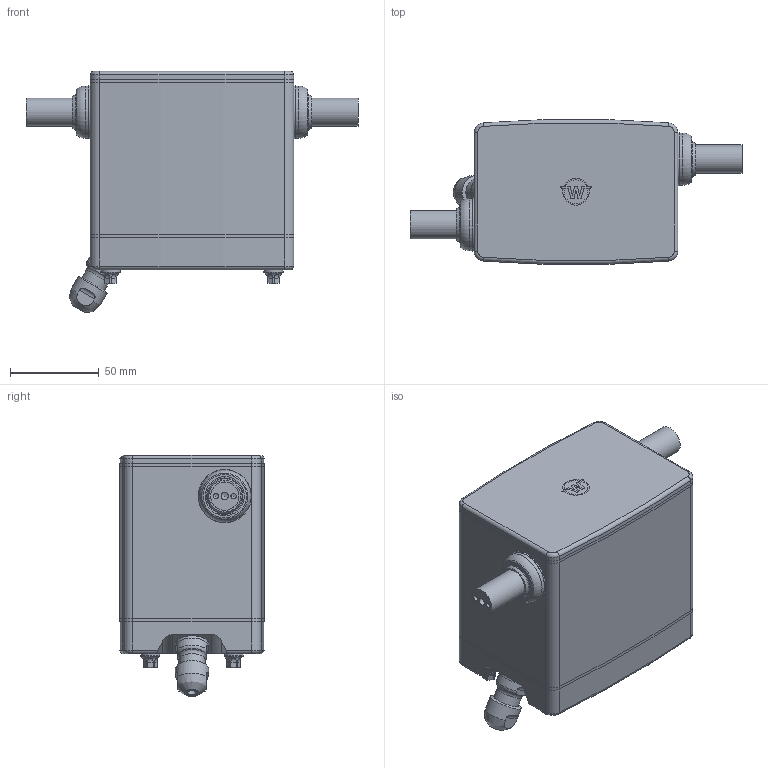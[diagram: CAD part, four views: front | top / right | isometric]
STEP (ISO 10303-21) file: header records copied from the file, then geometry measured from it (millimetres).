
FILE_DESCRIPTION(/* description */ ('High performance servo gripper module for aseptic applications.'),/* implementation_level */ '2;1');
FILE_NAME(/* name */ 'STERIGRIP 200 - Customer.stp',/* time_stamp */ '2021-12-16T12:05:34+01:00',/* author */ ('Weiss Robotics'),/* organization */ ('Weiss Robotics'),/* preprocessor_version */ '',/* originating_system */ '',/* authorisation */ '');
FILE_SCHEMA (('AUTOMOTIVE_DESIGN { 1 0 10303 214 3 1 1 }'));
Length unit declared in the file: millimetre
Products named in the file (6): STERIGRIP 200 - Customer; Grundkoerper; Stangenführung; Fingerdichtung; SKINTOP Hygienic M12x1,5 Art.-Nr. 531051005; K1492.04X16
Assembly tree (10 placements, depth 2):
  STERIGRIP 200 - Customer
    Grundkoerper
    Stangenführung  x2
    Fingerdichtung  x2
    SKINTOP Hygienic M12x1,5 Art.-Nr. 531051005
    K1492.04X16  x4
Bounding box: 187.5 x 81.55 x 136.19 mm (x, y, z)
Volume: 1043361.6 mm3; surface area: 132293 mm2
Topology: 22 solids, 22 shells, 374 faces, 1028 edges, 725 vertices
Faces by surface type: cylinder 181, plane 132, torus 33, cone 17, bspline 7, sphere 4
Full cylindrical faces by diameter (mm): 2.9 x4, 3 x4, 4 x8, 4.134 x2, 4.2 x4, 5 x1, 5.006 x1, 5.5 x4, 6.2 x1, 7.6 x1, 8.5 x1, 10.8 x4, 12 x2, 14.7 x1, 15.975 x2, 16 x4, 16.5 x2, 18.76 x1, 18.8 x2, 20 x1, 22 x4, 25 x4, 29.5 x2, 30 x2
Entity records: 9946 total; most frequent: CARTESIAN_POINT 3013, DIRECTION 1483, ORIENTED_EDGE 1344, EDGE_CURVE 672, AXIS2_PLACEMENT_3D 611, VERTEX_POINT 469, CIRCLE 345, EDGE_LOOP 305
